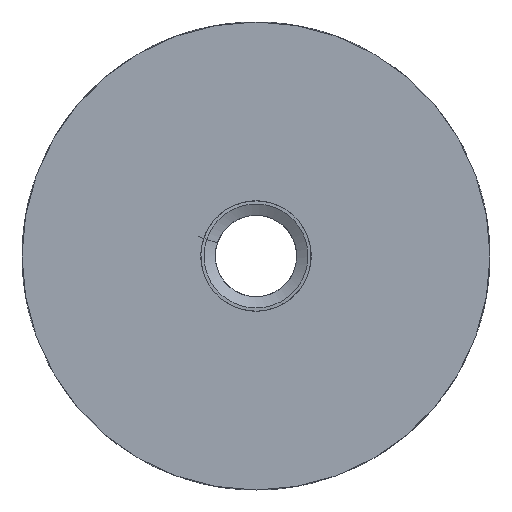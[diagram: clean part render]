
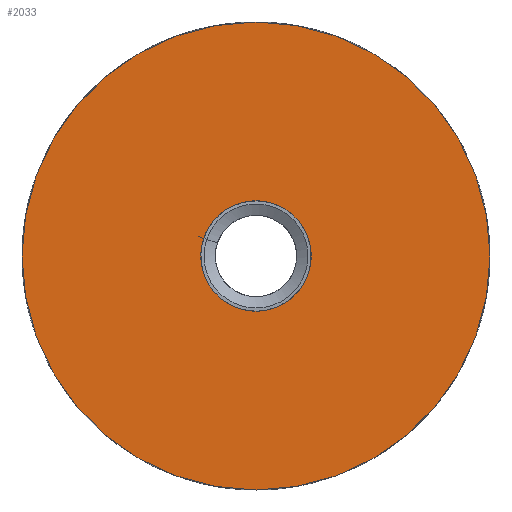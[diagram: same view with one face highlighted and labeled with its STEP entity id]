
A CAD part, left-side view. The second image highlights one B-rep face of the part: STEP entity #2033.
In plain terms, the highlighted planar face has unit normal (-1, 0, 0).
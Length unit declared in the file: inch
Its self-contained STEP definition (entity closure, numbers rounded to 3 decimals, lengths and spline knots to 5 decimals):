
#52 = AXIS2_PLACEMENT_3D ( 'NONE', #1105, #1097, #1094 ) ;
#111 = VERTEX_POINT ( 'NONE', #2948 ) ;
#181 = AXIS2_PLACEMENT_3D ( 'NONE', #2321, #2320, #2314 ) ;
#258 = AXIS2_PLACEMENT_3D ( 'NONE', #2678, #2669, #2664 ) ;
#412 = DIRECTION ( 'NONE',  ( 0., 0., 1. ) ) ;
#413 = DIRECTION ( 'NONE',  ( -1., 0., 0. ) ) ;
#415 = CARTESIAN_POINT ( 'NONE',  ( -0.624, 0., -0.5625 ) ) ;
#441 = PLANE ( 'NONE',  #1732 ) ;
#563 = ORIENTED_EDGE ( 'NONE', *, *, #3168, .F. ) ;
#582 = FACE_BOUND ( 'NONE', #1285, .T. ) ;
#852 = CARTESIAN_POINT ( 'NONE',  ( -0.624, 0., 0.5625 ) ) ;
#1038 = DIRECTION ( 'NONE',  ( 0., 0., 1. ) ) ;
#1041 = DIRECTION ( 'NONE',  ( -1., 0., 0. ) ) ;
#1042 = CARTESIAN_POINT ( 'NONE',  ( -0.624, 0., 0. ) ) ;
#1061 = CIRCLE ( 'NONE', #3302, 0.133 ) ;
#1092 = CARTESIAN_POINT ( 'NONE',  ( -0.624, 0., -0.5625 ) ) ;
#1094 = DIRECTION ( 'NONE',  ( 0., 0., -1. ) ) ;
#1097 = DIRECTION ( 'NONE',  ( 1., 0., 0. ) ) ;
#1105 = CARTESIAN_POINT ( 'NONE',  ( -0.624, 0., 0. ) ) ;
#1285 = EDGE_LOOP ( 'NONE', ( #2090, #563 ) ) ;
#1456 = CARTESIAN_POINT ( 'NONE',  ( -0.624, 0., -0.133 ) ) ;
#1658 = ORIENTED_EDGE ( 'NONE', *, *, #3121, .F. ) ;
#1673 = ORIENTED_EDGE ( 'NONE', *, *, #3339, .F. ) ;
#1732 = AXIS2_PLACEMENT_3D ( 'NONE', #415, #413, #412 ) ;
#1813 = CIRCLE ( 'NONE', #181, 0.133 ) ;
#1842 = FACE_OUTER_BOUND ( 'NONE', #3479, .T. ) ;
#1850 = CIRCLE ( 'NONE', #258, 0.5625 ) ;
#2033 = ADVANCED_FACE ( 'NONE', ( #582, #1842 ), #441, .T. ) ;
#2090 = ORIENTED_EDGE ( 'NONE', *, *, #3364, .F. ) ;
#2314 = DIRECTION ( 'NONE',  ( 0., 0., 1. ) ) ;
#2320 = DIRECTION ( 'NONE',  ( -1., 0., 0. ) ) ;
#2321 = CARTESIAN_POINT ( 'NONE',  ( -0.624, 0., 0. ) ) ;
#2664 = DIRECTION ( 'NONE',  ( 0., 0., -1. ) ) ;
#2669 = DIRECTION ( 'NONE',  ( 1., 0., 0. ) ) ;
#2678 = CARTESIAN_POINT ( 'NONE',  ( -0.624, 0., 0. ) ) ;
#2708 = CIRCLE ( 'NONE', #52, 0.5625 ) ;
#2948 = CARTESIAN_POINT ( 'NONE',  ( -0.624, 0., 0.133 ) ) ;
#3121 = EDGE_CURVE ( 'NONE', #3368, #3493, #1850, .T. ) ;
#3168 = EDGE_CURVE ( 'NONE', #3271, #111, #1813, .T. ) ;
#3271 = VERTEX_POINT ( 'NONE', #1456 ) ;
#3302 = AXIS2_PLACEMENT_3D ( 'NONE', #1042, #1041, #1038 ) ;
#3339 = EDGE_CURVE ( 'NONE', #3493, #3368, #2708, .T. ) ;
#3364 = EDGE_CURVE ( 'NONE', #111, #3271, #1061, .T. ) ;
#3368 = VERTEX_POINT ( 'NONE', #1092 ) ;
#3479 = EDGE_LOOP ( 'NONE', ( #1673, #1658 ) ) ;
#3493 = VERTEX_POINT ( 'NONE', #852 ) ;
